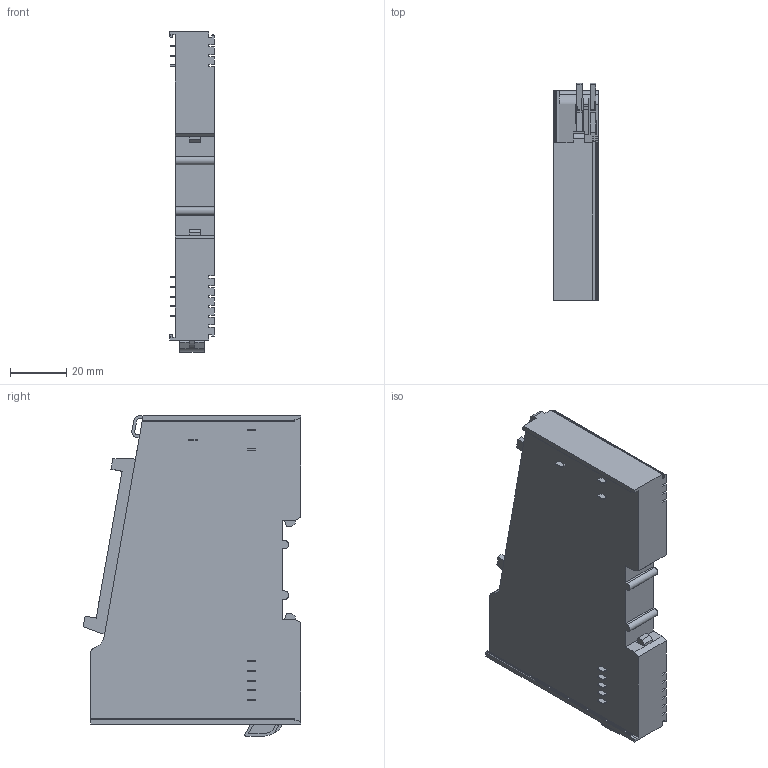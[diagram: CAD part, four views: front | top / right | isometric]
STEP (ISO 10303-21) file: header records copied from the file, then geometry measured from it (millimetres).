
FILE_DESCRIPTION (( 'STEP AP214' ), '1' );
FILE_NAME ('CT221H.STEP', '2023-07-12T07:48:53', ( '' ), ( '' ), 'SwSTEP 2.0', 'SolidWorks 2021', '' );
FILE_SCHEMA (( 'AUTOMOTIVE_DESIGN' ));
Length unit declared in the file: millimetre
Products named in the file (1): CT221H
Bounding box: 16 x 77.65 x 114.33 mm (x, y, z)
Volume: 98409 mm3; surface area: 26250.9 mm2
Topology: 1 solids, 1 shells, 522 faces, 1398 edges, 930 vertices
Faces by surface type: plane 445, bspline 55, cylinder 22
Entity records: 18460 total; most frequent: CARTESIAN_POINT 5694, ORIENTED_EDGE 2796, DIRECTION 2262, EDGE_CURVE 1398, LINE 1242, VECTOR 1242, VERTEX_POINT 930, EDGE_LOOP 576
